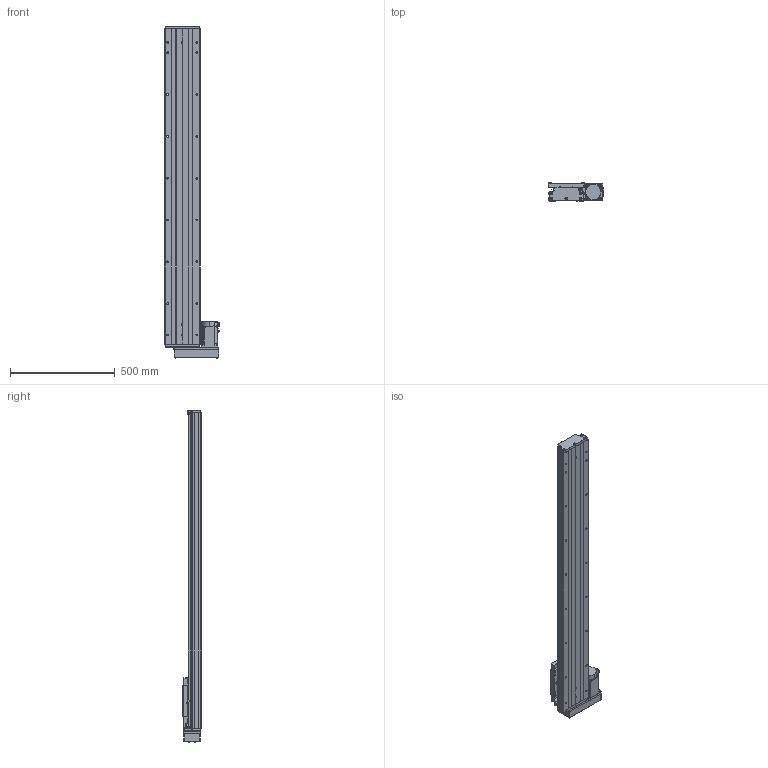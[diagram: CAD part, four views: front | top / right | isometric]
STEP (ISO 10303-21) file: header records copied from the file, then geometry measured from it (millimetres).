
FILE_DESCRIPTION (( 'STEP AP203' ), '1' );
FILE_NAME ('GTH17-1250-BR-M75-C4.step', '2023-06-30T13:17:32', ( '微软用户' ), ( '微软中国' ), 'SwSTEP 2.0', 'SolidWorks 2020', '' );
FILE_SCHEMA (( 'CONFIG_CONTROL_DESIGN' ));
Length unit declared in the file: millimetre
Products named in the file (19): HG-KN73J-S100; GTH17-002_GTH17-002; GBT 70.1-M3℅5; GBT 70.2-M4¡Á45_M4¡Á35; GTH17-004; GBT77-2000 M3×3; GTH17-015-2_CTHA86-015-2; GTH17-005; GBT 70.1-M6¡Á20_M6¡Á20; GTH17-033; GB1155-6X6; GTH17-031; GTH17-1250-BR-M75-C4; CTHA60-017; GBT 70.2-M3¡Á5_M3¡Á6; EE_SX911P_R; す晦芛蹟隊 M3℅5; GTH17-001_1250; CTHA60-016
Assembly tree (58 placements, depth 2):
  GTH17-1250-BR-M75-C4
    GTH17-001_1250
    GTH17-002_GTH17-002
    GTH17-004
    GTH17-005
    GB1155-6X6  x2
    CTHA60-017  x3
    EE_SX911P_R  x3
    CTHA60-016  x2
    GBT 70.1-M3℅5  x6
    GBT77-2000 M3×3  x6
    GBT 70.1-M6¡Á20_M6¡Á20  x10
    GTH17-031
    GBT 70.2-M3¡Á5_M3¡Á6  x8
    す晦芛蹟隊 M3℅5  x6
    HG-KN73J-S100
    GBT 70.2-M4¡Á45_M4¡Á35  x4
    GTH17-015-2_CTHA86-015-2
    GTH17-033
Bounding box: 264.3 x 87 x 1588.2 mm (x, y, z)
Volume: 12764288.7 mm3; surface area: 1666732 mm2
Topology: 61 solids, 61 shells, 2479 faces, 5917 edges, 3667 vertices
Faces by surface type: plane 1316, cylinder 690, cone 297, torus 124, sphere 32, bspline 20
Entity records: 45662 total; most frequent: CARTESIAN_POINT 10516, DIRECTION 6661, ORIENTED_EDGE 6546, EDGE_CURVE 3273, AXIS2_PLACEMENT_3D 2290, LINE 2081, VECTOR 2081, VERTEX_POINT 2079
